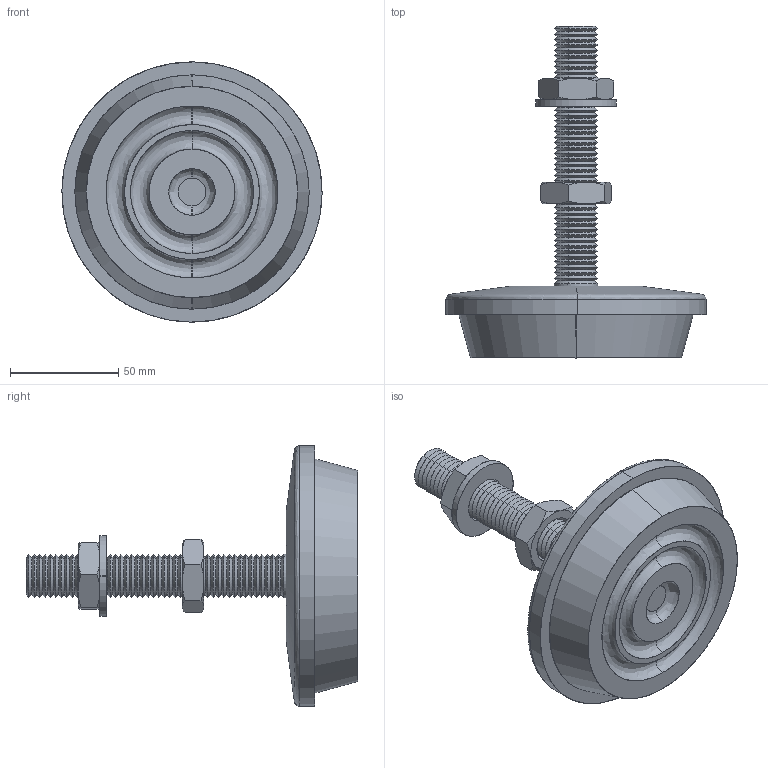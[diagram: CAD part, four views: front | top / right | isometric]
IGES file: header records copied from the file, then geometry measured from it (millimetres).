
Start section: SolidWorks IGES file using analytic representation for surfaces
Global section: file name: C:\Documents and Settings\IANO\Desktop\Temp File\Process pending\EXISTING\34930_v2\34930_v2_20170626_IGES\34930.W0420.igs; native system: SolidWorks 2009; preprocessor: SolidWorks 2009; author: IANO; date: 170626.131534; units: millimetre
Bounding box: 120 x 153 x 120 mm (x, y, z)
Surface area: 70805.9 mm2 (no closed solid volume)
Topology: 0 solids, 0 shells, 280 faces, 2698 edges, 2698 vertices
Faces by surface type: revolution 245, bspline 35
